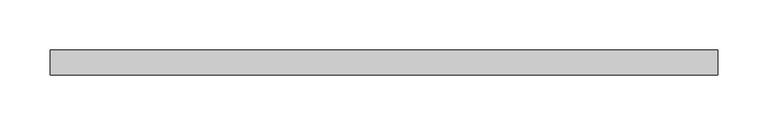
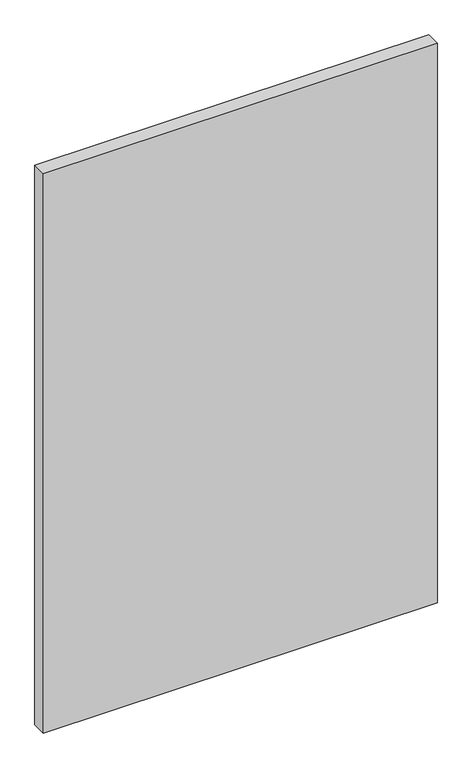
"""IFC4 building model written with IfcOpenShell, lengths in millimetres: plate geometry, システム パネル1 : ガラス."""

from ifc_helpers import new_model, si_unit, origin, origin_with_axes, place, context, project, spatial, polyline, outline, extrude, source, transform, mapped, element, save


def plate_8868ab24(model_context):
    return source(origin(), model_context, "Body", "SweptSolid", [
        extrude(outline(polyline([(333.3333333, 24.5), (-333.3333333, 24.5), (-333.3333333, 49.5), (333.3333333, 49.5), (333.3333333, 24.5)])), origin_with_axes(), (0.0, 0.0, 1.0), 1000.0),
    ])


if __name__ == "__main__":
    model = new_model("IFC4")
    model_context = context("Model", 3, world=origin())
    ifc_project = project(units=[si_unit("LENGTHUNIT", "METRE", prefix="MILLI")], contexts=[model_context])
    site = spatial("IfcSite", under=ifc_project)
    building = spatial("IfcBuilding", under=site)
    placement = place(None, origin())
    plate_shape = plate_8868ab24(model_context)
    element("IfcPlate", 1, ObjectType="システム パネル1 : ガラス", at=placement, inside=building, context=model_context, shape_type="MappedRepresentation", body=[
        mapped(plate_shape, transform((0.0, 0.0, 0.0), x_axis=(1.0, 0.0, 0.0), y_axis=(0.0, 1.0, 0.0), z_axis=(0.0, 0.0, 1.0))),
    ])
    save(model, "model.ifc")
